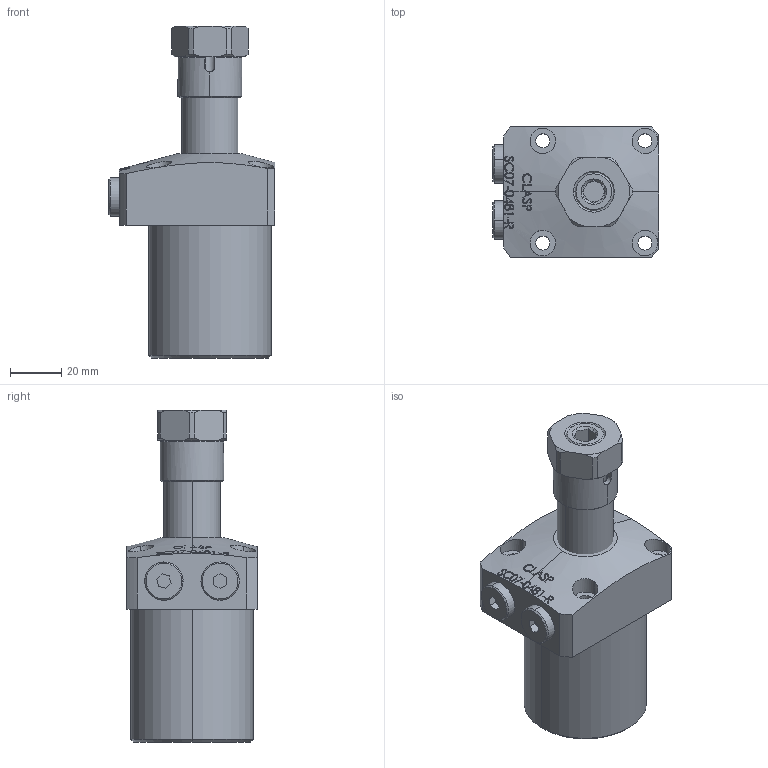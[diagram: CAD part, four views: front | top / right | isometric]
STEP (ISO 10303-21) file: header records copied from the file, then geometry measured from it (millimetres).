
FILE_DESCRIPTION (( 'STEP AP203' ), '1' );
FILE_NAME ('SC07-0481-R.STEP', '2022-07-05T17:50:46', ( '' ), ( '' ), 'SwSTEP 2.0', 'SolidWorks 2017', '' );
FILE_SCHEMA (( 'CONFIG_CONTROL_DESIGN' ));
Length unit declared in the file: millimetre
Products named in the file (6): SC-07-0481-R BODY; SC-07-0481-R-Piston; SC-07-0481-R-05 plug; SC-07-0481-R-04 sleeve; SC-07-0481-R-03-nut; SC07-0481-R
Assembly tree (6 placements, depth 2):
  SC07-0481-R
    SC-07-0481-R BODY
    SC-07-0481-R-Piston
    SC-07-0481-R-05 plug  x2
    SC-07-0481-R-04 sleeve
    SC-07-0481-R-03-nut
Bounding box: 65 x 51 x 130 mm (x, y, z)
Volume: 201759.2 mm3; surface area: 35045.6 mm2
Topology: 6 solids, 6 shells, 372 faces, 929 edges, 609 vertices
Faces by surface type: plane 162, bspline 94, cylinder 62, cone 52, sphere 2
Entity records: 16829 total; most frequent: CARTESIAN_POINT 8368, ORIENTED_EDGE 1794, DIRECTION 1266, EDGE_CURVE 897, VERTEX_POINT 589, AXIS2_PLACEMENT_3D 430, EDGE_LOOP 408, LINE 406
